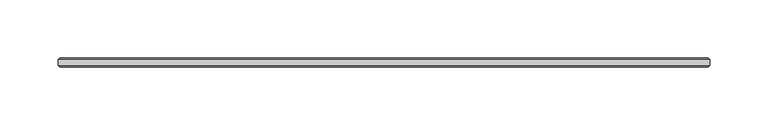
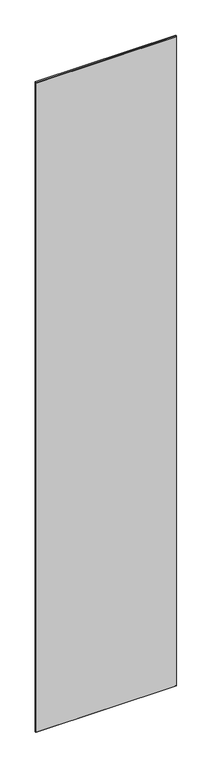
"""IFC4 building model written with IfcOpenShell, lengths in millimetres: plate geometry, 1-AMG-1-Панель одинарный витраж 8, 10 : Смещение 32 Толщина 8mm."""

from ifc_helpers import new_model, si_unit, origin, place, context, project, spatial, faceted_brep, source, transform, mapped, element, save


def plate_69bc51ca(model_context):
    return source(origin(), model_context, "Body", "Brep", [
        faceted_brep([(280.0, -29.5038347, 2722.8), (-280.0, -29.5038347, 2722.8), (-280.0, -34.4961653, 2722.8), (280.0, -34.4961653, 2722.8), (280.0, -34.5039422, -7.0), (-280.0, -34.5039422, -7.0), (-280.0, -29.5038347, -7.0), (280.0, -29.5038347, -7.0), (-278.4961653, -36.0, 2721.2961653), (-278.4961653, -36.0, -5.5039422), (278.4961653, -36.0, -5.5039422), (278.4961653, -36.0, 2721.2961653), (278.4961653, -28.0, 2721.2961653), (278.4961653, -28.0, -5.4961653), (-278.4961653, -28.0, -5.4961653), (-278.4961653, -28.0, 2721.2961653)], [[[0, 1, 2, 3]], [[4, 5, 6, 7]], [[8, 9, 10, 11]], [[1, 6, 5, 2]], [[12, 13, 14, 15]], [[3, 4, 7, 0]], [[3, 11, 10, 4]], [[7, 13, 12, 0]], [[5, 9, 8, 2]], [[1, 15, 14, 6]], [[0, 12, 15, 1]], [[2, 8, 11, 3]], [[6, 14, 13, 7]], [[4, 10, 9, 5]]]),
    ])


if __name__ == "__main__":
    model = new_model("IFC4")
    model_context = context("Model", 3, world=origin())
    ifc_project = project(units=[si_unit("LENGTHUNIT", "METRE", prefix="MILLI")], contexts=[model_context])
    site = spatial("IfcSite", under=ifc_project)
    building = spatial("IfcBuilding", under=site)
    placement = place(None, origin())
    plate_shape = plate_69bc51ca(model_context)
    element("IfcPlate", 1, ObjectType="1-AMG-1-Панель одинарный витраж 8, 10 : Смещение 32 Толщина 8mm", at=placement, inside=building, context=model_context, shape_type="MappedRepresentation", body=[
        mapped(plate_shape, transform((0.0, 0.0, 0.0), x_axis=(1.0, 0.0, 0.0), y_axis=(0.0, 1.0, 0.0), z_axis=(0.0, 0.0, 1.0))),
    ])
    save(model, "model.ifc")
